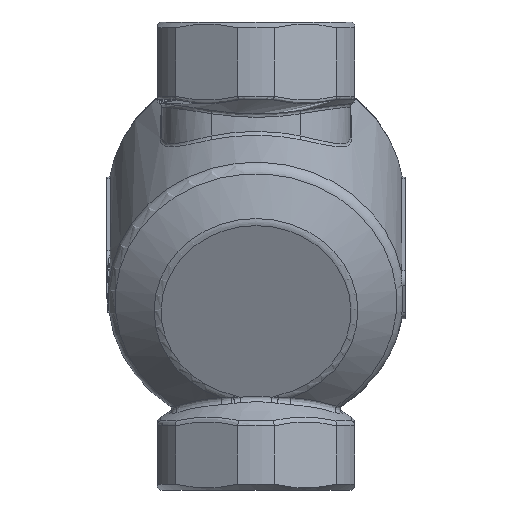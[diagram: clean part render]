
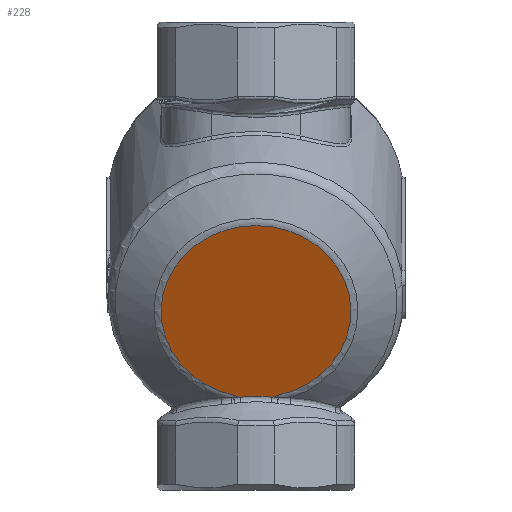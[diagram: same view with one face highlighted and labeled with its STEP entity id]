
A CAD part, front view. The second image highlights one B-rep face of the part: STEP entity #228.
In plain terms, the highlighted planar face has unit normal (0, -0.906, -0.423).
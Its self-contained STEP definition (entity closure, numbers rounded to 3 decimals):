
#228=ADVANCED_FACE('',(#5418),#5420,.T.);
#5418=FACE_BOUND('',#5419,.T.);
#5419=EDGE_LOOP('',(#9925,#9926,#9927,#9928));
#5420=PLANE('',#5421);
#5421=AXIS2_PLACEMENT_3D('',#5422,#5423,#5424);
#5422=CARTESIAN_POINT('',(0.,-38.065,-17.75));
#5423=DIRECTION('',(0.,-0.906,-0.423));
#5424=DIRECTION('',(-1.,0.,0.));
#9925=ORIENTED_EDGE('',*,*,#12096,.T.);
#9926=ORIENTED_EDGE('',*,*,#12281,.F.);
#9927=ORIENTED_EDGE('',*,*,#12279,.F.);
#9928=ORIENTED_EDGE('',*,*,#12282,.F.);
#12096=EDGE_CURVE('',#13565,#13562,#13566,.T.);
#12279=EDGE_CURVE('',#13873,#13875,#13876,.T.);
#12281=EDGE_CURVE('',#13875,#13562,#13878,.T.);
#12282=EDGE_CURVE('',#13565,#13873,#13879,.T.);
#13562=VERTEX_POINT('',#19017);
#13565=VERTEX_POINT('',#19029);
#13566=B_SPLINE_CURVE_WITH_KNOTS('',3,
(#19030,#19031,#19032,#19033,#19034,#19035,#19036,#19037,#19038),
.UNSPECIFIED.,.F.,.F.,
(4,1,1,1,1,1,4),
(0.,0.197,0.376,0.532,0.69,0.846,
1.),
.UNSPECIFIED.);
#13873=VERTEX_POINT('',#20408);
#13875=VERTEX_POINT('',#20413);
#13876=CIRCLE('',#20414,33.672);
#13878=B_SPLINE_CURVE_WITH_KNOTS('',3,
(#20422,#20423,#20424,#20425,#20426,#20427,#20428,#20429,#20430),
.UNSPECIFIED.,.F.,.F.,
(4,1,1,1,1,1,4),
(0.,0.252,0.46,0.622,0.788,0.914,
1.),
.UNSPECIFIED.);
#13879=B_SPLINE_CURVE_WITH_KNOTS('',3,
(#20431,#20432,#20433,#20434,#20435,#20436,#20437,#20438,#20439),
.UNSPECIFIED.,.F.,.F.,
(4,1,1,1,1,1,4),
(0.,0.18,0.359,0.537,0.748,0.903,
1.),
.UNSPECIFIED.);
#19017=CARTESIAN_POINT('',(5.627,-23.933,-48.055));
#19029=CARTESIAN_POINT('',(-5.627,-23.933,-48.055));
#19030=CARTESIAN_POINT('',(-5.627,-23.933,-48.055));
#19031=CARTESIAN_POINT('',(-4.89,-23.968,-47.982));
#19032=CARTESIAN_POINT('',(-3.484,-24.02,-47.869));
#19033=CARTESIAN_POINT('',(-1.486,-24.06,-47.783));
#19034=CARTESIAN_POINT('',(0.367,-24.068,-47.766));
#19035=CARTESIAN_POINT('',(2.135,-24.05,-47.805));
#19036=CARTESIAN_POINT('',(3.892,-24.006,-47.9));
#19037=CARTESIAN_POINT('',(5.051,-23.96,-47.998));
#19038=CARTESIAN_POINT('',(5.627,-23.933,-48.055));
#20408=CARTESIAN_POINT('',(-7.735,-24.215,-47.451));
#20413=CARTESIAN_POINT('',(7.735,-24.215,-47.451));
#20414=AXIS2_PLACEMENT_3D('',#20415,#20416,#20417);
#20415=CARTESIAN_POINT('',(0.,-38.065,-17.75));
#20416=DIRECTION('',(0.,0.906,0.423));
#20417=DIRECTION('',(-0.23,0.411,-0.882));
#20422=CARTESIAN_POINT('',(7.735,-24.215,-47.451));
#20423=CARTESIAN_POINT('',(7.554,-24.197,-47.49));
#20424=CARTESIAN_POINT('',(7.226,-24.162,-47.565));
#20425=CARTESIAN_POINT('',(6.787,-24.109,-47.679));
#20426=CARTESIAN_POINT('',(6.412,-24.059,-47.786));
#20427=CARTESIAN_POINT('',(6.095,-24.012,-47.886));
#20428=CARTESIAN_POINT('',(5.833,-23.97,-47.977));
#20429=CARTESIAN_POINT('',(5.686,-23.944,-48.032));
#20430=CARTESIAN_POINT('',(5.627,-23.933,-48.055));
#20431=CARTESIAN_POINT('',(-5.627,-23.933,-48.055));
#20432=CARTESIAN_POINT('',(-5.751,-23.956,-48.007));
#20433=CARTESIAN_POINT('',(-5.999,-23.998,-47.918));
#20434=CARTESIAN_POINT('',(-6.373,-24.053,-47.798));
#20435=CARTESIAN_POINT('',(-6.771,-24.107,-47.683));
#20436=CARTESIAN_POINT('',(-7.156,-24.154,-47.583));
#20437=CARTESIAN_POINT('',(-7.486,-24.19,-47.506));
#20438=CARTESIAN_POINT('',(-7.666,-24.208,-47.466));
#20439=CARTESIAN_POINT('',(-7.735,-24.215,-47.451));
